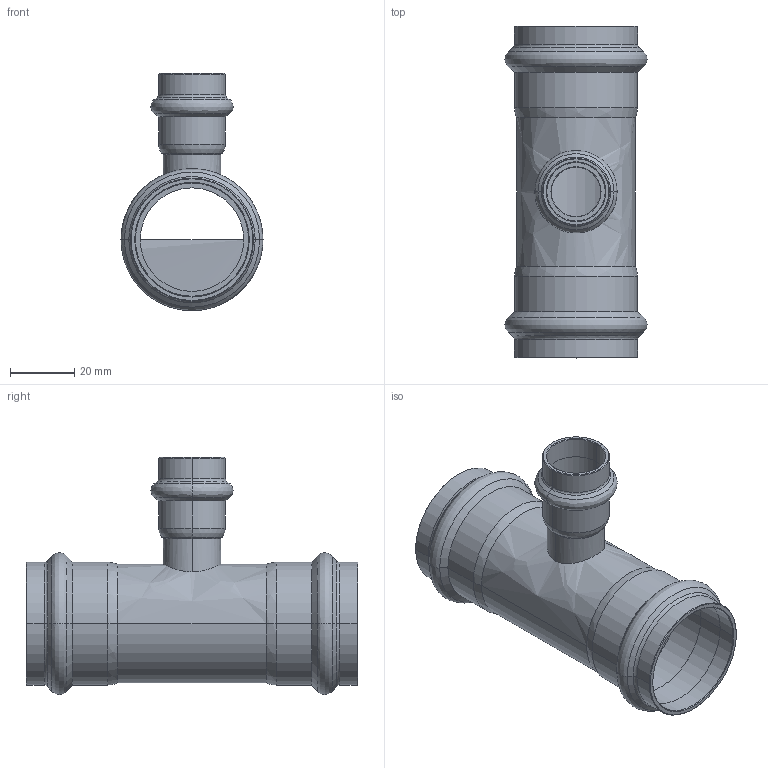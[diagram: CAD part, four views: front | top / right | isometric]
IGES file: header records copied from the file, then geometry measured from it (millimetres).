
Start section: Elysium IGES Interface
Global section: file name: C:\Users\Wallenburg\Desktop\3d modellen sudo\S-Pr VP\SP6130RV\6130RVW351835.igs; native system: CoCreate Modeling 17.00A  17-Jun-2010; preprocessor: CoCreate IGES_3D V2.2; author: Unknown; organization: Unknown; date: 20130117.135504; units: millimetre
Bounding box: 44.3 x 103.51 x 74 mm (x, y, z)
Volume: 25215.7 mm3; surface area: 29361.6 mm2
Topology: 1 solids, 1 shells, 124 faces, 264 edges, 142 vertices
Faces by surface type: bspline 124
